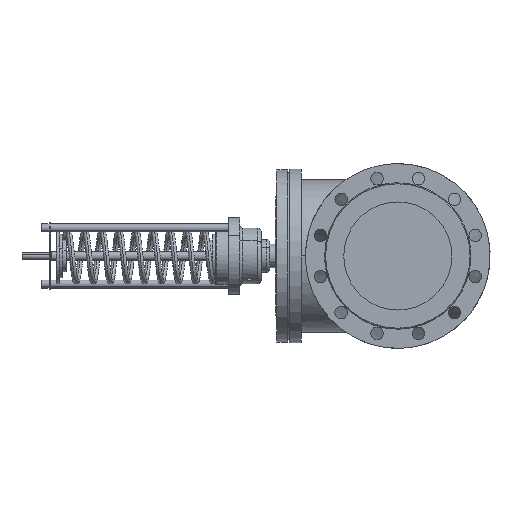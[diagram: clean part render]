
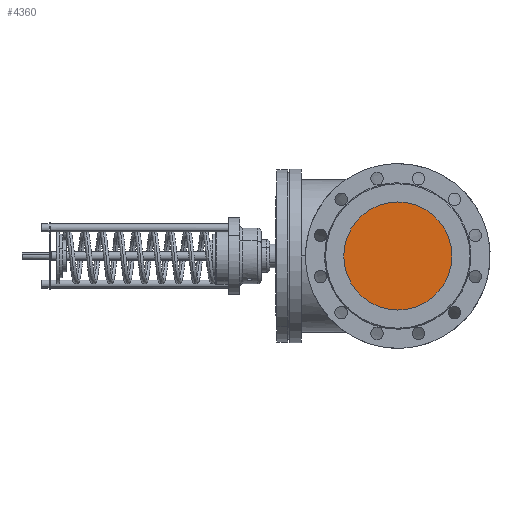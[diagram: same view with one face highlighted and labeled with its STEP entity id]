
A CAD part, left-side view. The second image highlights one B-rep face of the part: STEP entity #4360.
In plain terms, the highlighted planar face has unit normal (-1, 0, 0).
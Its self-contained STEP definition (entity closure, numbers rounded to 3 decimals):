
#570 = DIRECTION ( 'NONE',  ( 0., 0., -1. ) ) ;
#595 = CARTESIAN_POINT ( 'NONE',  ( -12.803, -120.473, -1.511 ) ) ;
#1493 = ORIENTED_EDGE ( 'NONE', *, *, #4986, .F. ) ;
#1603 = VERTEX_POINT ( 'NONE', #7542 ) ;
#2285 = CARTESIAN_POINT ( 'NONE',  ( -12.803, -120.473, -1.511 ) ) ;
#3604 = EDGE_CURVE ( 'NONE', #1603, #4779, #6531, .T. ) ;
#3685 = FACE_OUTER_BOUND ( 'NONE', #6948, .T. ) ;
#4285 = AXIS2_PLACEMENT_3D ( 'NONE', #2285, #6783, #570 ) ;
#4360 = ADVANCED_FACE ( 'NONE', ( #3685 ), #5185, .F. ) ;
#4401 = CARTESIAN_POINT ( 'NONE',  ( -12.803, -120.473, -1.511 ) ) ;
#4420 = AXIS2_PLACEMENT_3D ( 'NONE', #4401, #5981, #9087 ) ;
#4779 = VERTEX_POINT ( 'NONE', #9308 ) ;
#4986 = EDGE_CURVE ( 'NONE', #4779, #1603, #8827, .T. ) ;
#5185 = PLANE ( 'NONE',  #4285 ) ;
#5499 = DIRECTION ( 'NONE',  ( 1., 0., 0. ) ) ;
#5981 = DIRECTION ( 'NONE',  ( 1., 0., 0. ) ) ;
#6531 = CIRCLE ( 'NONE', #4420, 99.5 ) ;
#6783 = DIRECTION ( 'NONE',  ( 1., 0., 0. ) ) ;
#6948 = EDGE_LOOP ( 'NONE', ( #7816, #1493 ) ) ;
#7542 = CARTESIAN_POINT ( 'NONE',  ( -12.8, -219.973, -1.511 ) ) ;
#7816 = ORIENTED_EDGE ( 'NONE', *, *, #3604, .F. ) ;
#8419 = DIRECTION ( 'NONE',  ( 0., 1., 0. ) ) ;
#8827 = CIRCLE ( 'NONE', #9653, 99.5 ) ;
#9087 = DIRECTION ( 'NONE',  ( 0., 1., 0. ) ) ;
#9308 = CARTESIAN_POINT ( 'NONE',  ( -12.807, -20.973, -1.511 ) ) ;
#9653 = AXIS2_PLACEMENT_3D ( 'NONE', #595, #5499, #8419 ) ;
